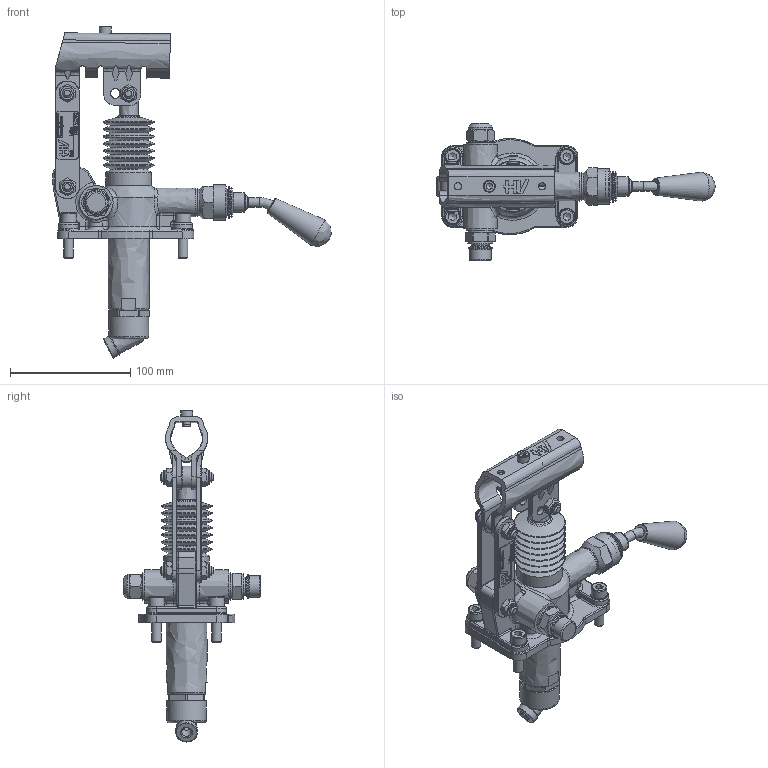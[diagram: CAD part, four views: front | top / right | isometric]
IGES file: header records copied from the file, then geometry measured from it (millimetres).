
Global section: file name: No Iges File Name specified; native system: Autodesk Inventor 2013; preprocessor: AutoDesk Inventor Iges Exporter R2013; author: christian.scardovi; date: 20240228.123158; units: millimetre
Bounding box: 231.27 x 114 x 276.08 mm (x, y, z)
Volume: 422189.9 mm3; surface area: 131502.8 mm2
Topology: 3 solids, 3 shells, 1502 faces, 3747 edges, 2355 vertices
Faces by surface type: bspline 1502
